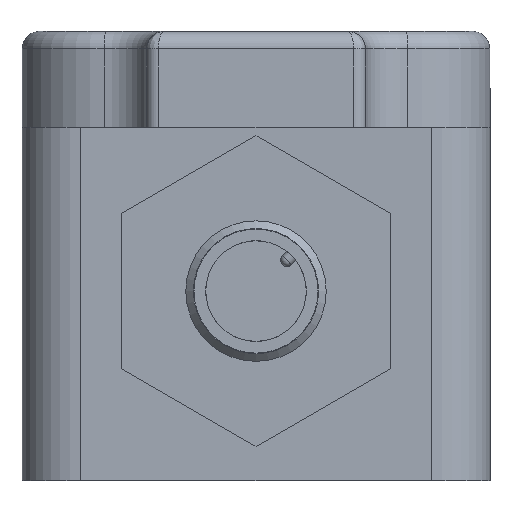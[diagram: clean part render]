
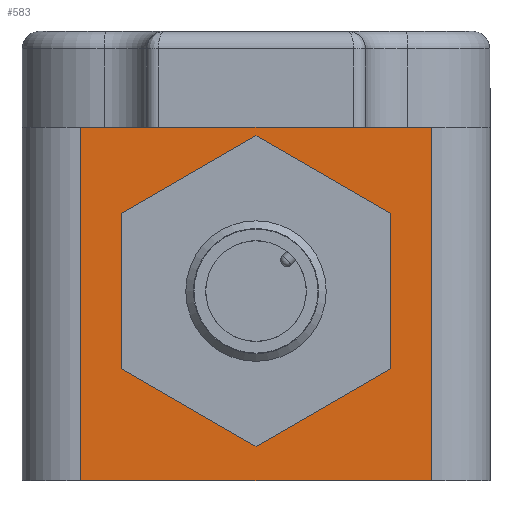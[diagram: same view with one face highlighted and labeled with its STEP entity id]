
A CAD part, front view. The second image highlights one B-rep face of the part: STEP entity #583.
In plain terms, the highlighted planar face has unit normal (0, -1, 0).
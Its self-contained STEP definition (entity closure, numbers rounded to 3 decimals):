
#494=CARTESIAN_POINT('',(15.,-66.3,-16.2));
#495=DIRECTION('',(0.0,-1.0,0.0));
#496=DIRECTION('',(0.0,0.0,-1.0));
#497=AXIS2_PLACEMENT_3D('',#494,#495,#496);
#498=PLANE('',#497);
#499=CARTESIAN_POINT('',(15.,-66.3,-16.2));
#500=VERTEX_POINT('',#499);
#501=CARTESIAN_POINT('',(15.,-66.3,14.));
#502=VERTEX_POINT('',#501);
#503=CARTESIAN_POINT('',(15.,-66.3,-16.2));
#504=DIRECTION('',(0.0,0.0,1.0));
#505=VECTOR('',#504,30.2);
#506=LINE('',#503,#505);
#507=EDGE_CURVE('',#500,#502,#506,.T.);
#508=ORIENTED_EDGE('',*,*,#507,.T.);
#509=CARTESIAN_POINT('',(-15.,-66.3,14.));
#510=VERTEX_POINT('',#509);
#511=CARTESIAN_POINT('',(-15.,-66.3,14.));
#512=DIRECTION('',(1.0,0.0,0.0));
#513=VECTOR('',#512,30.);
#514=LINE('',#511,#513);
#515=EDGE_CURVE('',#510,#502,#514,.T.);
#516=ORIENTED_EDGE('',*,*,#515,.F.);
#517=CARTESIAN_POINT('',(-15.,-66.3,-16.2));
#518=VERTEX_POINT('',#517);
#519=CARTESIAN_POINT('',(-15.,-66.3,-16.2));
#520=DIRECTION('',(0.0,0.0,1.0));
#521=VECTOR('',#520,30.2);
#522=LINE('',#519,#521);
#523=EDGE_CURVE('',#518,#510,#522,.T.);
#524=ORIENTED_EDGE('',*,*,#523,.F.);
#525=CARTESIAN_POINT('',(-15.,-66.3,-16.2));
#526=DIRECTION('',(1.0,0.0,0.0));
#527=VECTOR('',#526,30.);
#528=LINE('',#525,#527);
#529=EDGE_CURVE('',#518,#500,#528,.T.);
#530=ORIENTED_EDGE('',*,*,#529,.T.);
#531=EDGE_LOOP('',(#508,#516,#524,#530));
#532=FACE_OUTER_BOUND('',#531,.T.);
#533=CARTESIAN_POINT('',(0.,-66.3,13.279));
#534=VERTEX_POINT('',#533);
#535=CARTESIAN_POINT('',(-11.5,-66.3,6.64));
#536=VERTEX_POINT('',#535);
#537=CARTESIAN_POINT('',(0.,-66.3,13.279));
#538=DIRECTION('',(-0.866,0.0,-0.5));
#539=VECTOR('',#538,13.279);
#540=LINE('',#537,#539);
#541=EDGE_CURVE('',#534,#536,#540,.T.);
#542=ORIENTED_EDGE('',*,*,#541,.F.);
#543=CARTESIAN_POINT('',(11.5,-66.3,6.64));
#544=VERTEX_POINT('',#543);
#545=CARTESIAN_POINT('',(11.5,-66.3,6.64));
#546=DIRECTION('',(-0.866,0.0,0.5));
#547=VECTOR('',#546,13.279);
#548=LINE('',#545,#547);
#549=EDGE_CURVE('',#544,#534,#548,.T.);
#550=ORIENTED_EDGE('',*,*,#549,.F.);
#551=CARTESIAN_POINT('',(11.5,-66.3,-6.64));
#552=VERTEX_POINT('',#551);
#553=CARTESIAN_POINT('',(11.5,-66.3,-6.64));
#554=DIRECTION('',(0.0,0.0,1.0));
#555=VECTOR('',#554,13.279);
#556=LINE('',#553,#555);
#557=EDGE_CURVE('',#552,#544,#556,.T.);
#558=ORIENTED_EDGE('',*,*,#557,.F.);
#559=CARTESIAN_POINT('',(0.,-66.3,-13.279));
#560=VERTEX_POINT('',#559);
#561=CARTESIAN_POINT('',(0.,-66.3,-13.279));
#562=DIRECTION('',(0.866,0.0,0.5));
#563=VECTOR('',#562,13.279);
#564=LINE('',#561,#563);
#565=EDGE_CURVE('',#560,#552,#564,.T.);
#566=ORIENTED_EDGE('',*,*,#565,.F.);
#567=CARTESIAN_POINT('',(-11.5,-66.3,-6.64));
#568=VERTEX_POINT('',#567);
#569=CARTESIAN_POINT('',(-11.5,-66.3,-6.64));
#570=DIRECTION('',(0.866,0.0,-0.5));
#571=VECTOR('',#570,13.279);
#572=LINE('',#569,#571);
#573=EDGE_CURVE('',#568,#560,#572,.T.);
#574=ORIENTED_EDGE('',*,*,#573,.F.);
#575=CARTESIAN_POINT('',(-11.5,-66.3,6.64));
#576=DIRECTION('',(0.0,0.0,-1.0));
#577=VECTOR('',#576,13.279);
#578=LINE('',#575,#577);
#579=EDGE_CURVE('',#536,#568,#578,.T.);
#580=ORIENTED_EDGE('',*,*,#579,.F.);
#581=EDGE_LOOP('',(#542,#550,#558,#566,#574,#580));
#582=FACE_BOUND('',#581,.T.);
#583=ADVANCED_FACE('',(#532,#582),#498,.T.);
